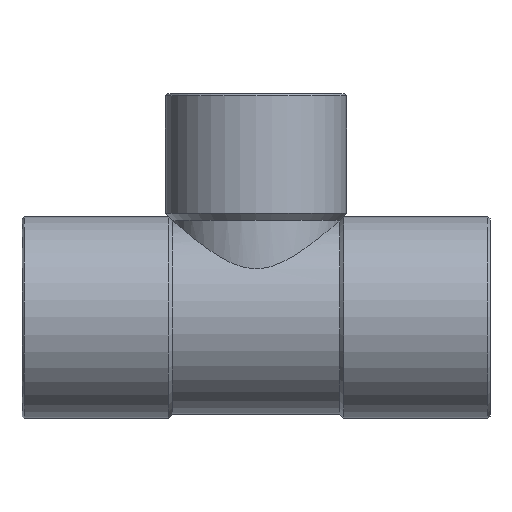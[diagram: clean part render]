
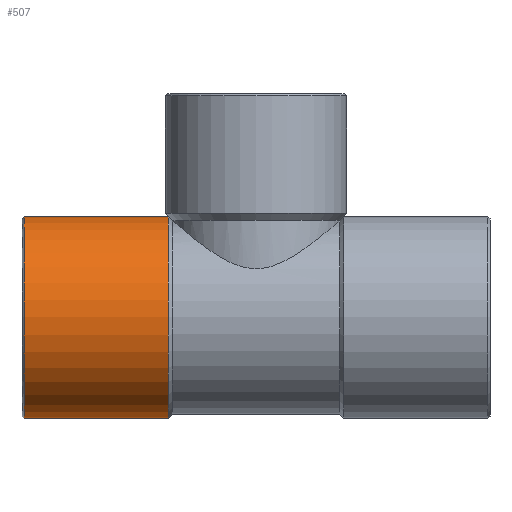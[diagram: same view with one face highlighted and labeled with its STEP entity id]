
A CAD part, top view. The second image highlights one B-rep face of the part: STEP entity #507.
In plain terms, the highlighted cylindrical face has radius 9.9 mm (diameter 19.8 mm), a partial arc.
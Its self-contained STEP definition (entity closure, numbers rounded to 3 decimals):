
#158=CARTESIAN_POINT('',(-8.63,9.9,0.0));
#159=VERTEX_POINT('',#158);
#166=CARTESIAN_POINT('',(-8.63,-9.9,0.));
#167=VERTEX_POINT('',#166);
#168=CARTESIAN_POINT('',(-8.63,0.0,0.0));
#169=DIRECTION('',(1.0,0.0,0.0));
#170=DIRECTION('',(0.0,1.0,0.0));
#171=AXIS2_PLACEMENT_3D('',#168,#169,#170);
#172=CIRCLE('',#171,9.9);
#173=EDGE_CURVE('',#159,#167,#172,.T.);
#476=CARTESIAN_POINT('',(-15.815,0.0,0.0));
#477=DIRECTION('',(1.0,0.0,0.0));
#478=DIRECTION('',(0.0,1.0,0.0));
#479=AXIS2_PLACEMENT_3D('',#476,#477,#478);
#480=CYLINDRICAL_SURFACE('',#479,9.9);
#481=CARTESIAN_POINT('',(-22.8,9.9,0.));
#482=VERTEX_POINT('',#481);
#483=CARTESIAN_POINT('',(-22.8,9.9,0.));
#484=DIRECTION('',(1.0,0.0,0.0));
#485=VECTOR('',#484,14.17);
#486=LINE('',#483,#485);
#487=EDGE_CURVE('',#482,#159,#486,.T.);
#488=ORIENTED_EDGE('',*,*,#487,.F.);
#489=CARTESIAN_POINT('',(-22.8,-9.9,0.));
#490=VERTEX_POINT('',#489);
#491=CARTESIAN_POINT('',(-22.8,0.0,0.0));
#492=DIRECTION('',(-1.0,0.0,0.0));
#493=DIRECTION('',(0.0,-1.0,0.0));
#494=AXIS2_PLACEMENT_3D('',#491,#492,#493);
#495=CIRCLE('',#494,9.9);
#496=EDGE_CURVE('',#490,#482,#495,.T.);
#497=ORIENTED_EDGE('',*,*,#496,.F.);
#498=CARTESIAN_POINT('',(-8.63,-9.9,0.));
#499=DIRECTION('',(-1.0,0.0,0.0));
#500=VECTOR('',#499,14.17);
#501=LINE('',#498,#500);
#502=EDGE_CURVE('',#167,#490,#501,.T.);
#503=ORIENTED_EDGE('',*,*,#502,.F.);
#504=ORIENTED_EDGE('',*,*,#173,.F.);
#505=EDGE_LOOP('',(#488,#497,#503,#504));
#506=FACE_OUTER_BOUND('',#505,.T.);
#507=ADVANCED_FACE('',(#506),#480,.T.);
